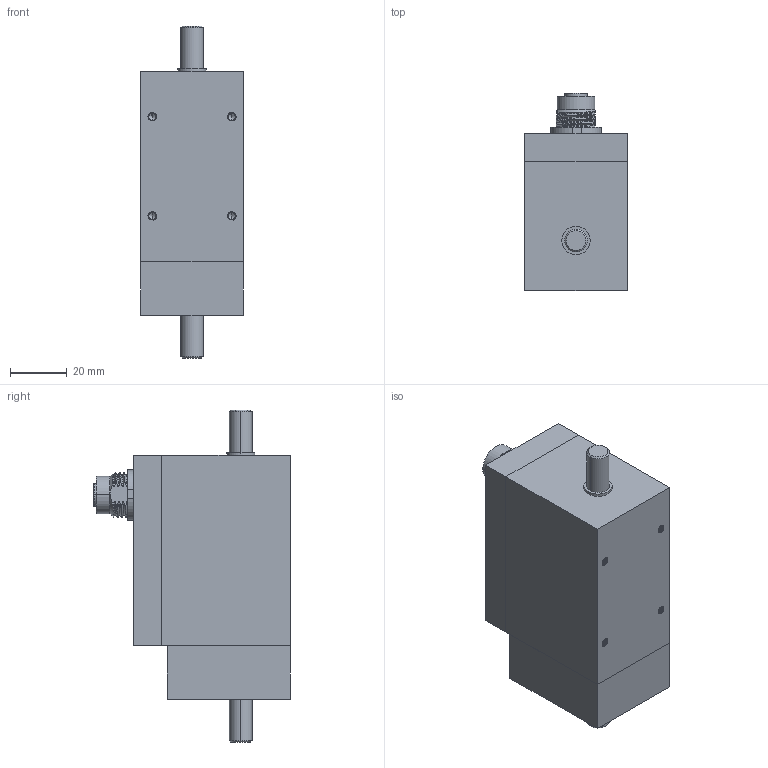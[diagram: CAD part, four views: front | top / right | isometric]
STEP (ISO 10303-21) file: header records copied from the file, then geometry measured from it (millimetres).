
FILE_DESCRIPTION (( 'STEP AP203' ), '1' );
FILE_NAME ('2500蚾饜极.STEP', '2025-03-12T02:46:07', ( 'China' ), ( 'Microsoft' ), 'SwSTEP 2.0', 'SolidWorks 2024', '' );
FILE_SCHEMA (( 'CONFIG_CONTROL_DESIGN' ));
Length unit declared in the file: millimetre
Products named in the file (3): 2-40B芯航插; 2500装配体; 1-2500
Assembly tree (2 placements, depth 2):
  2500装配体
    1-2500
    2-40B芯航插
Bounding box: 36 x 69.4 x 117 mm (x, y, z)
Volume: 166432.2 mm3; surface area: 31095.4 mm2
Topology: 6 solids, 6 shells, 298 faces, 798 edges, 521 vertices
Faces by surface type: cylinder 178, plane 61, bspline 38, cone 18, torus 3
Entity records: 22782 total; most frequent: CARTESIAN_POINT 16245, ORIENTED_EDGE 1580, DIRECTION 1024, EDGE_CURVE 790, VERTEX_POINT 521, AXIS2_PLACEMENT_3D 363, EDGE_LOOP 315, ADVANCED_FACE 298
